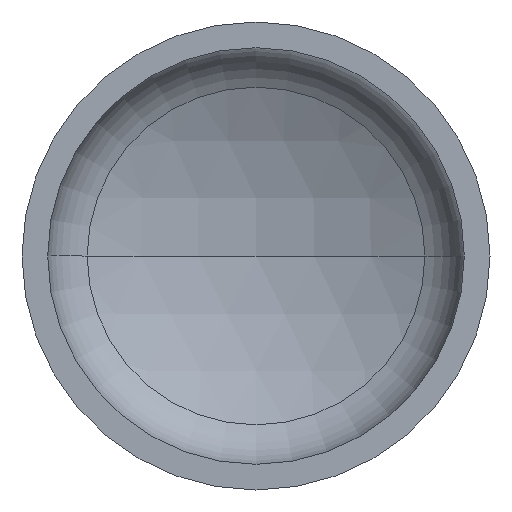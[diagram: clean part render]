
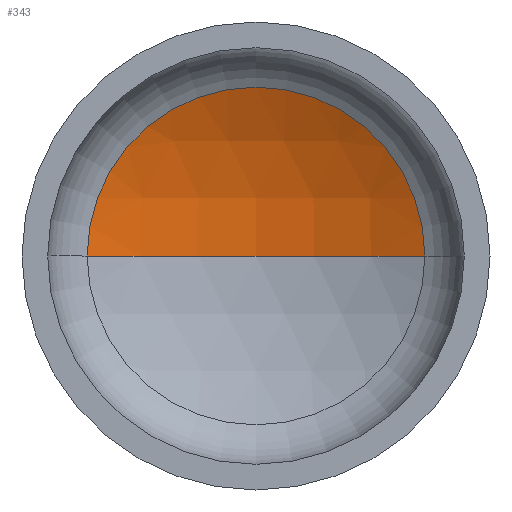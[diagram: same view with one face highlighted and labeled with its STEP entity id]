
A CAD part, front view. The second image highlights one B-rep face of the part: STEP entity #343.
In plain terms, the highlighted spherical face has radius 218 mm.
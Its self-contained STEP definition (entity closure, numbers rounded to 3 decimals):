
#6 = AXIS2_PLACEMENT_3D ( 'NONE', #396, #182, #358 ) ;
#11 = AXIS2_PLACEMENT_3D ( 'NONE', #146, #149, #108 ) ;
#12 = AXIS2_PLACEMENT_3D ( 'NONE', #381, #197, #173 ) ;
#17 = ORIENTED_EDGE ( 'NONE', *, *, #350, .T. ) ;
#22 = EDGE_LOOP ( 'NONE', ( #61, #17, #243 ) ) ;
#24 = AXIS2_PLACEMENT_3D ( 'NONE', #179, #357, #408 ) ;
#36 = VERTEX_POINT ( 'NONE', #289 ) ;
#51 = VERTEX_POINT ( 'NONE', #253 ) ;
#61 = ORIENTED_EDGE ( 'NONE', *, *, #371, .F. ) ;
#108 = DIRECTION ( 'NONE',  ( -1., 0., 0. ) ) ;
#114 = VERTEX_POINT ( 'NONE', #232 ) ;
#146 = CARTESIAN_POINT ( 'NONE',  ( 0., -112.021, 0. ) ) ;
#149 = DIRECTION ( 'NONE',  ( 0., 0., -1. ) ) ;
#173 = DIRECTION ( 'NONE',  ( 1., 0., 0. ) ) ;
#179 = CARTESIAN_POINT ( 'NONE',  ( 0., -112.021, 0. ) ) ;
#182 = DIRECTION ( 'NONE',  ( 0., 0., 1. ) ) ;
#197 = DIRECTION ( 'NONE',  ( 0., -1., 0. ) ) ;
#232 = CARTESIAN_POINT ( 'NONE',  ( 0., 105.979, 0. ) ) ;
#238 = CIRCLE ( 'NONE', #11, 218. ) ;
#243 = ORIENTED_EDGE ( 'NONE', *, *, #346, .T. ) ;
#253 = CARTESIAN_POINT ( 'NONE',  ( -98.472, 82.471, 0. ) ) ;
#289 = CARTESIAN_POINT ( 'NONE',  ( 98.472, 82.471, 0. ) ) ;
#299 = SPHERICAL_SURFACE ( 'NONE', #24, 218. ) ;
#343 = ADVANCED_FACE ( 'NONE', ( #367 ), #299, .F. ) ;
#346 = EDGE_CURVE ( 'NONE', #36, #51, #405, .T. ) ;
#350 = EDGE_CURVE ( 'NONE', #114, #36, #238, .T. ) ;
#357 = DIRECTION ( 'NONE',  ( 0., 0., -1. ) ) ;
#358 = DIRECTION ( 'NONE',  ( 1., 0., 0. ) ) ;
#361 = CIRCLE ( 'NONE', #6, 218. ) ;
#367 = FACE_OUTER_BOUND ( 'NONE', #22, .T. ) ;
#371 = EDGE_CURVE ( 'NONE', #114, #51, #361, .T. ) ;
#381 = CARTESIAN_POINT ( 'NONE',  ( 0., 82.471, 0. ) ) ;
#396 = CARTESIAN_POINT ( 'NONE',  ( 0., -112.021, 0. ) ) ;
#405 = CIRCLE ( 'NONE', #12, 98.472 ) ;
#408 = DIRECTION ( 'NONE',  ( -1., 0., 0. ) ) ;
